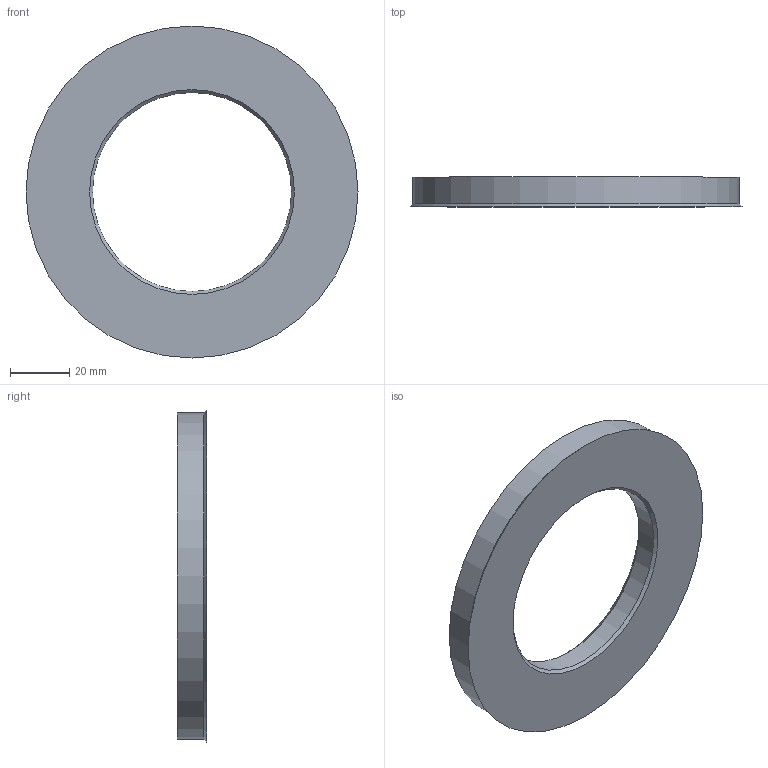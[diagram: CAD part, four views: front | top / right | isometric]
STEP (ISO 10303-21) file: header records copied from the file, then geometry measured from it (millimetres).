
FILE_DESCRIPTION(/* description */ (''),/* implementation_level */ '2;1');
FILE_NAME(/* name */ 'G:\CAD Library\Team Tasks\DIPP\11th Intake\Bradley Coles\Design Drafting\Random\Hub Rings\ipt\HubRing_110-67.1.stp',/* time_stamp */ '2025-07-22T13:41:49+08:00',/* author */ ('BCOLES'),/* organization */ (''),/* preprocessor_version */ 'ST-DEVELOPER v18.1',/* originating_system */ 'Autodesk Inventor 2022',/* authorisation */ '');
FILE_SCHEMA (('AUTOMOTIVE_DESIGN { 1 0 10303 214 3 1 1 }'));
Length unit declared in the file: millimetre
Products named in the file (1): HubRing_110-67.1
Bounding box: 112 x 10 x 112 mm (x, y, z)
Volume: 59308.7 mm3; surface area: 17630.4 mm2
Topology: 1 solids, 1 shells, 7 faces, 13 edges, 8 vertices
Faces by surface type: cone 3, cylinder 2, plane 2
Full cylindrical faces by diameter (mm): 67.1 x1, 110 x1
Entity records: 226 total; most frequent: DIRECTION 37, CARTESIAN_POINT 29, ORIENTED_EDGE 26, AXIS2_PLACEMENT_3D 16, EDGE_CURVE 13, EDGE_LOOP 9, CIRCLE 8, VERTEX_POINT 8
